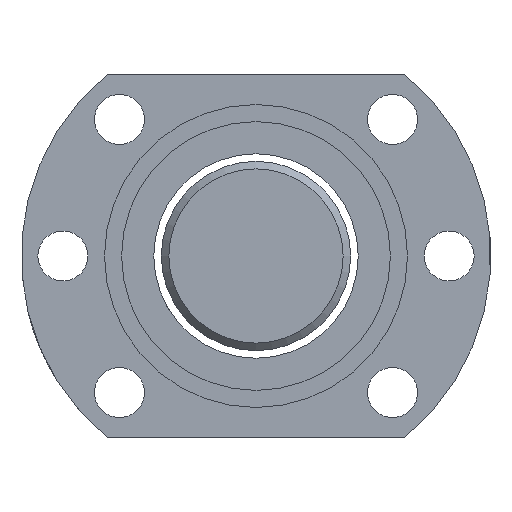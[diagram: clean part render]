
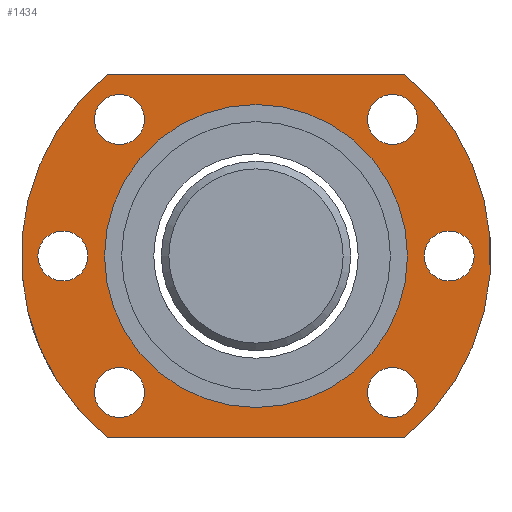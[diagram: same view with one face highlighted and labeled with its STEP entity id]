
A CAD part, left-side view. The second image highlights one B-rep face of the part: STEP entity #1434.
In plain terms, the highlighted planar face has unit normal (-1, 0, 0).
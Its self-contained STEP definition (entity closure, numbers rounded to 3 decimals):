
#44 = EDGE_CURVE ( 'NONE', #846, #846, #1031, .T. ) ;
#64 = CARTESIAN_POINT ( 'NONE',  ( -103.351, -3.654, -44.018 ) ) ;
#70 = CARTESIAN_POINT ( 'NONE',  ( -103.351, -9.533, -23.318 ) ) ;
#99 = CARTESIAN_POINT ( 'NONE',  ( -103.351, -29.154, -67.318 ) ) ;
#128 = FACE_BOUND ( 'NONE', #742, .T. ) ;
#179 = AXIS2_PLACEMENT_3D ( 'NONE', #1652, #2405, #2041 ) ;
#185 = DIRECTION ( 'NONE',  ( -1., 0., 0. ) ) ;
#197 = ORIENTED_EDGE ( 'NONE', *, *, #928, .F. ) ;
#227 = EDGE_CURVE ( 'NONE', #1062, #1062, #459, .T. ) ;
#245 = DIRECTION ( 'NONE',  ( -1., 0., 0. ) ) ;
#262 = DIRECTION ( 'NONE',  ( 0., -1., 0. ) ) ;
#267 = EDGE_CURVE ( 'NONE', #1255, #917, #1277, .T. ) ;
#271 = CARTESIAN_POINT ( 'NONE',  ( -103.351, -3.654, -47.318 ) ) ;
#313 = CARTESIAN_POINT ( 'NONE',  ( -103.351, -11.123, -62.049 ) ) ;
#332 = ORIENTED_EDGE ( 'NONE', *, *, #2155, .T. ) ;
#335 = CARTESIAN_POINT ( 'NONE',  ( -103.351, -11.123, -29.287 ) ) ;
#459 = CIRCLE ( 'NONE', #1477, 3.3 ) ;
#464 = CIRCLE ( 'NONE', #1646, 3.3 ) ;
#472 = DIRECTION ( 'NONE',  ( -1., 0., 0. ) ) ;
#473 = ORIENTED_EDGE ( 'NONE', *, *, #1004, .T. ) ;
#504 = EDGE_LOOP ( 'NONE', ( #197 ) ) ;
#511 = DIRECTION ( 'NONE',  ( 0., 0., 1. ) ) ;
#515 = ORIENTED_EDGE ( 'NONE', *, *, #227, .F. ) ;
#555 = FACE_BOUND ( 'NONE', #1805, .T. ) ;
#568 = DIRECTION ( 'NONE',  ( -1., 0., 0. ) ) ;
#593 = DIRECTION ( 'NONE',  ( 0., 0., 1. ) ) ;
#639 = LINE ( 'NONE', #651, #663 ) ;
#642 = CARTESIAN_POINT ( 'NONE',  ( -103.351, -54.654, -47.318 ) ) ;
#651 = CARTESIAN_POINT ( 'NONE',  ( -103.351, -9.533, -71.318 ) ) ;
#663 = VECTOR ( 'NONE', #262, 1000. ) ;
#664 = ORIENTED_EDGE ( 'NONE', *, *, #2009, .T. ) ;
#684 = ORIENTED_EDGE ( 'NONE', *, *, #1495, .F. ) ;
#697 = FACE_BOUND ( 'NONE', #1865, .T. ) ;
#711 = CARTESIAN_POINT ( 'NONE',  ( -103.351, -29.154, -47.318 ) ) ;
#736 = AXIS2_PLACEMENT_3D ( 'NONE', #851, #991, #593 ) ;
#742 = EDGE_LOOP ( 'NONE', ( #515 ) ) ;
#798 = DIRECTION ( 'NONE',  ( 0., 0., -1. ) ) ;
#846 = VERTEX_POINT ( 'NONE', #2372 ) ;
#851 = CARTESIAN_POINT ( 'NONE',  ( -103.351, -47.186, -65.349 ) ) ;
#868 = CIRCLE ( 'NONE', #2183, 31. ) ;
#871 = AXIS2_PLACEMENT_3D ( 'NONE', #2334, #568, #798 ) ;
#872 = EDGE_LOOP ( 'NONE', ( #684 ) ) ;
#905 = FACE_OUTER_BOUND ( 'NONE', #1668, .T. ) ;
#917 = VERTEX_POINT ( 'NONE', #70 ) ;
#926 = FACE_BOUND ( 'NONE', #2050, .T. ) ;
#928 = EDGE_CURVE ( 'NONE', #1253, #1253, #1228, .T. ) ;
#943 = CIRCLE ( 'NONE', #179, 31. ) ;
#968 = CARTESIAN_POINT ( 'NONE',  ( -103.351, -11.123, -65.349 ) ) ;
#984 = ORIENTED_EDGE ( 'NONE', *, *, #2227, .F. ) ;
#991 = DIRECTION ( 'NONE',  ( 1., 0., 0. ) ) ;
#999 = CARTESIAN_POINT ( 'NONE',  ( -103.351, -48.776, -71.318 ) ) ;
#1004 = EDGE_CURVE ( 'NONE', #1653, #1653, #1836, .T. ) ;
#1031 = CIRCLE ( 'NONE', #1679, 3.3 ) ;
#1062 = VERTEX_POINT ( 'NONE', #2387 ) ;
#1079 = ORIENTED_EDGE ( 'NONE', *, *, #44, .T. ) ;
#1080 = AXIS2_PLACEMENT_3D ( 'NONE', #1536, #2308, #2021 ) ;
#1136 = FACE_BOUND ( 'NONE', #1841, .T. ) ;
#1173 = DIRECTION ( 'NONE',  ( 0., 0., -1. ) ) ;
#1208 = CARTESIAN_POINT ( 'NONE',  ( -103.351, -48.776, -23.318 ) ) ;
#1228 = CIRCLE ( 'NONE', #1517, 3.3 ) ;
#1253 = VERTEX_POINT ( 'NONE', #64 ) ;
#1255 = VERTEX_POINT ( 'NONE', #1208 ) ;
#1277 = LINE ( 'NONE', #2421, #2483 ) ;
#1293 = FACE_BOUND ( 'NONE', #872, .T. ) ;
#1307 = DIRECTION ( 'NONE',  ( 0., 0., 1. ) ) ;
#1434 = ADVANCED_FACE ( 'NONE', ( #1136, #697, #1293, #128, #2095, #905, #555, #926 ), #2296, .T. ) ;
#1477 = AXIS2_PLACEMENT_3D ( 'NONE', #335, #472, #511 ) ;
#1481 = VERTEX_POINT ( 'NONE', #313 ) ;
#1495 = EDGE_CURVE ( 'NONE', #1481, #1481, #464, .T. ) ;
#1498 = DIRECTION ( 'NONE',  ( -1., 0., 0. ) ) ;
#1517 = AXIS2_PLACEMENT_3D ( 'NONE', #271, #245, #2391 ) ;
#1528 = VERTEX_POINT ( 'NONE', #999 ) ;
#1536 = CARTESIAN_POINT ( 'NONE',  ( -103.351, -47.186, -29.287 ) ) ;
#1564 = DIRECTION ( 'NONE',  ( 0., 0., 1. ) ) ;
#1624 = EDGE_CURVE ( 'NONE', #1528, #1255, #868, .T. ) ;
#1646 = AXIS2_PLACEMENT_3D ( 'NONE', #968, #185, #1564 ) ;
#1652 = CARTESIAN_POINT ( 'NONE',  ( -103.351, -29.154, -47.318 ) ) ;
#1653 = VERTEX_POINT ( 'NONE', #2418 ) ;
#1662 = CARTESIAN_POINT ( 'NONE',  ( -103.351, -47.186, -25.987 ) ) ;
#1668 = EDGE_LOOP ( 'NONE', ( #664, #332, #2498, #2231 ) ) ;
#1679 = AXIS2_PLACEMENT_3D ( 'NONE', #642, #2361, #1824 ) ;
#1728 = DIRECTION ( 'NONE',  ( -1., 0., 0. ) ) ;
#1800 = AXIS2_PLACEMENT_3D ( 'NONE', #711, #1498, #1307 ) ;
#1805 = EDGE_LOOP ( 'NONE', ( #984 ) ) ;
#1824 = DIRECTION ( 'NONE',  ( 0., 0., 1. ) ) ;
#1836 = CIRCLE ( 'NONE', #736, 3.3 ) ;
#1841 = EDGE_LOOP ( 'NONE', ( #1878 ) ) ;
#1865 = EDGE_LOOP ( 'NONE', ( #473 ) ) ;
#1878 = ORIENTED_EDGE ( 'NONE', *, *, #2527, .T. ) ;
#1917 = VERTEX_POINT ( 'NONE', #1662 ) ;
#1932 = VERTEX_POINT ( 'NONE', #99 ) ;
#1972 = CIRCLE ( 'NONE', #871, 20. ) ;
#2009 = EDGE_CURVE ( 'NONE', #917, #2526, #943, .T. ) ;
#2021 = DIRECTION ( 'NONE',  ( 0., 0., 1. ) ) ;
#2041 = DIRECTION ( 'NONE',  ( 0., 0., -1. ) ) ;
#2050 = EDGE_LOOP ( 'NONE', ( #1079 ) ) ;
#2054 = DIRECTION ( 'NONE',  ( 0., 1., 0. ) ) ;
#2095 = FACE_BOUND ( 'NONE', #504, .T. ) ;
#2155 = EDGE_CURVE ( 'NONE', #2526, #1528, #639, .T. ) ;
#2183 = AXIS2_PLACEMENT_3D ( 'NONE', #2289, #1728, #1173 ) ;
#2227 = EDGE_CURVE ( 'NONE', #1932, #1932, #1972, .T. ) ;
#2231 = ORIENTED_EDGE ( 'NONE', *, *, #267, .T. ) ;
#2289 = CARTESIAN_POINT ( 'NONE',  ( -103.351, -29.154, -47.318 ) ) ;
#2296 = PLANE ( 'NONE',  #1800 ) ;
#2308 = DIRECTION ( 'NONE',  ( 1., 0., 0. ) ) ;
#2334 = CARTESIAN_POINT ( 'NONE',  ( -103.351, -29.154, -47.318 ) ) ;
#2361 = DIRECTION ( 'NONE',  ( 1., 0., 0. ) ) ;
#2372 = CARTESIAN_POINT ( 'NONE',  ( -103.351, -54.654, -44.018 ) ) ;
#2387 = CARTESIAN_POINT ( 'NONE',  ( -103.351, -11.123, -25.987 ) ) ;
#2391 = DIRECTION ( 'NONE',  ( 0., 0., 1. ) ) ;
#2405 = DIRECTION ( 'NONE',  ( -1., 0., 0. ) ) ;
#2418 = CARTESIAN_POINT ( 'NONE',  ( -103.351, -47.186, -62.049 ) ) ;
#2421 = CARTESIAN_POINT ( 'NONE',  ( -103.351, -48.776, -23.318 ) ) ;
#2483 = VECTOR ( 'NONE', #2054, 1000. ) ;
#2495 = CARTESIAN_POINT ( 'NONE',  ( -103.351, -9.533, -71.318 ) ) ;
#2498 = ORIENTED_EDGE ( 'NONE', *, *, #1624, .T. ) ;
#2499 = CIRCLE ( 'NONE', #1080, 3.3 ) ;
#2526 = VERTEX_POINT ( 'NONE', #2495 ) ;
#2527 = EDGE_CURVE ( 'NONE', #1917, #1917, #2499, .T. ) ;
